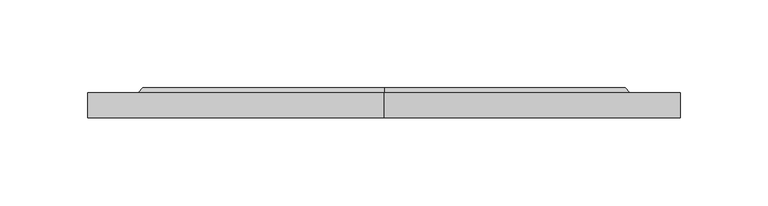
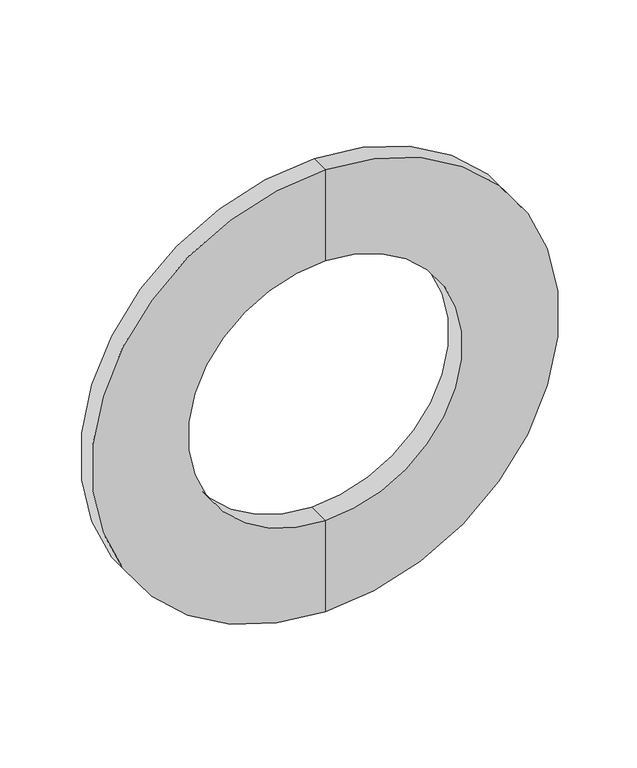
"""IFC4 building model written with IfcOpenShell, lengths in millimetres: pipe fitting geometry, Фланец : Фланец."""

from ifc_helpers import new_model, si_unit, frame, origin, place, context, project, spatial, polyline, circle_curve, source, transform, mapped, element, save
from ifc_brep_helpers import plane_surface, cylinder_surface, revolved_surface, advanced_brep


def pipe_fitting_8b49ddb3(model_context):
    return source(origin(), model_context, "Body", "AdvancedBrep", [
        advanced_brep(
        [(0.0, 0.0, -170.0), (0.0, 0.0, 170.0), (0.0, 14.2, 170.0), (0.0, 14.2, -170.0), (0.0, 0.0, -100.0), (0.0, 0.0, 100.0), (0.0, 17.2, -100.0), (0.0, 17.2, 100.0), (0.0, 17.2, -138.5), (0.0, 17.2, 138.5), (0.0, 14.2, -141.0), (0.0, 14.2, 141.0)],
        [
            (0, 1, circle_curve(frame((0.0, 0.0, 0.0), z_axis=(0.0, 1.0, 0.0), x_axis=(0.0, 0.0, 1.0)), 170.0)),
            (1, 2),
            (2, 3, circle_curve(frame((0.0, 14.2, 0.0), z_axis=(0.0, -1.0, 0.0), x_axis=(0.0, 0.0, 1.0)), 170.0)),
            (3, 0),
            (1, 0, circle_curve(frame((0.0, 0.0, 0.0), z_axis=(0.0, 1.0, 0.0), x_axis=(0.0, 0.0, 1.0)), 170.0)),
            (3, 2, circle_curve(frame((0.0, 14.2, 0.0), z_axis=(0.0, -1.0, 0.0), x_axis=(0.0, 0.0, 1.0)), 170.0)),
            (4, 5, circle_curve(frame((0.0, 0.0, 0.0), z_axis=(0.0, 1.0, 0.0), x_axis=(0.0, 0.0, 1.0)), 100.0)),
            (5, 1),
            (0, 4),
            (5, 4, circle_curve(frame((0.0, 0.0, 0.0), z_axis=(0.0, 1.0, 0.0), x_axis=(0.0, 0.0, 1.0)), 100.0)),
            (6, 7, circle_curve(frame((0.0, 17.2, 0.0), z_axis=(0.0, 1.0, 0.0), x_axis=(0.0, 0.0, 1.0)), 100.0)),
            (7, 5),
            (4, 6),
            (7, 6, circle_curve(frame((0.0, 17.2, 0.0), z_axis=(0.0, 1.0, 0.0), x_axis=(0.0, 0.0, 1.0)), 100.0)),
            (8, 9, circle_curve(frame((0.0, 17.2, 0.0), z_axis=(0.0, 1.0, 0.0), x_axis=(0.0, 0.0, 1.0)), 138.5)),
            (9, 7),
            (6, 8),
            (9, 8, circle_curve(frame((0.0, 17.2, 0.0), z_axis=(0.0, 1.0, 0.0), x_axis=(0.0, 0.0, 1.0)), 138.5)),
            (10, 11, circle_curve(frame((0.0, 14.2, 0.0), z_axis=(0.0, 1.0, 0.0), x_axis=(0.0, 0.0, 1.0)), 141.0)),
            (11, 9),
            (8, 10),
            (11, 10, circle_curve(frame((0.0, 14.2, 0.0), z_axis=(0.0, 1.0, 0.0), x_axis=(0.0, 0.0, 1.0)), 141.0)),
            (2, 11),
            (10, 3),
        ],
        [
            cylinder_surface(frame((0.0, -60.0, 0.0), z_axis=(0.0, -1.0, 0.0), x_axis=(0.0, 0.0, 1.0)), 170.0),
            plane_surface(frame((0.0, 0.0, 0.0), z_axis=(0.0, -1.0, 0.0), x_axis=(0.0, 0.0, 1.0))),
            revolved_surface(polyline([(0.0, 0.0, 100.0), (0.0, 17.200000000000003, 100.0)]), (0.0, -60.0, 0.0), (0.0, -1.0, 0.0)),
            plane_surface(frame((0.0, 17.2, 0.0), z_axis=(0.0, 1.0, 0.0), x_axis=(0.0, 0.0, 1.0))),
            revolved_surface(polyline([(0.0, 17.2, 138.5), (0.0, 14.2, 141.0)]), (0.0, -60.0, 0.0), (0.0, -1.0, 0.0)),
            plane_surface(frame((0.0, 14.2, 0.0), z_axis=(0.0, 1.0, 0.0), x_axis=(0.0, 0.0, 1.0))),
        ],
        [
            (0, [[1, 2, 3, 4]]),
            (0, [[5, -4, 6, -2]]),
            (1, [[7, 8, -1, 9]]),
            (1, [[10, -9, -5, -8]]),
            (2, [[11, 12, -7, 13]]),
            (2, [[14, -13, -10, -12]]),
            (3, [[15, 16, -11, 17]]),
            (3, [[18, -17, -14, -16]]),
            (4, [[19, 20, -15, 21]]),
            (4, [[22, -21, -18, -20]]),
            (5, [[-3, 23, -19, 24]]),
            (5, [[-6, -24, -22, -23]]),
        ],
    ),
    ])


if __name__ == "__main__":
    model = new_model("IFC4")
    model_context = context("Model", 3, world=origin())
    ifc_project = project(units=[si_unit("LENGTHUNIT", "METRE", prefix="MILLI")], contexts=[model_context])
    site = spatial("IfcSite", under=ifc_project)
    building = spatial("IfcBuilding", under=site)
    placement = place(None, origin())
    pipe_fitting_shape = pipe_fitting_8b49ddb3(model_context)
    element("IfcPipeFitting", 1, ObjectType="Фланец : Фланец", at=placement, inside=building, context=model_context, shape_type="MappedRepresentation", body=[
        mapped(pipe_fitting_shape, transform((0.0, 0.0, 0.0), x_axis=(1.0, 0.0, 0.0), y_axis=(0.0, 1.0, 0.0), z_axis=(0.0, 0.0, 1.0))),
    ])
    save(model, "model.ifc")
